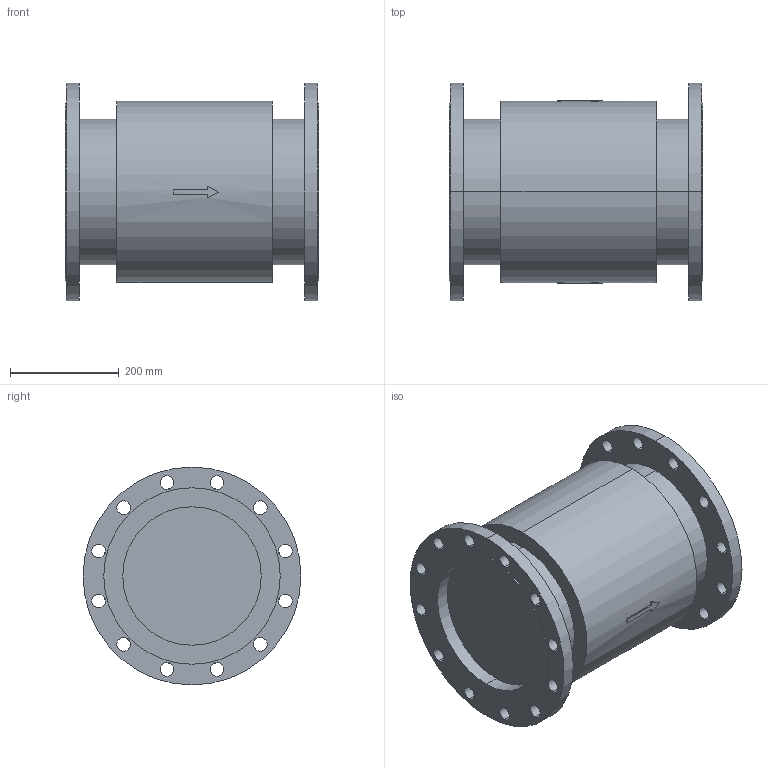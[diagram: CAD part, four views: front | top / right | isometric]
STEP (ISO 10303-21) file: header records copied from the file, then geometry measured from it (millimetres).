
FILE_DESCRIPTION( (''), '2;1');
FILE_NAME ('PC1027.10420.EB-1J　250A_19806.stp','2025-07-29T12:57:39',(''),(''),'spGate 20.6.3 (****-****-****-****)','','');
FILE_SCHEMA (('AUTOMOTIVE_DESIGN'));
Length unit declared in the file: millimetre
Bounding box: 465 x 400 x 400 mm (x, y, z)
Volume: 35426460 mm3; surface area: 984593.5 mm2
Topology: 1 solids, 1 shells, 92 faces, 242 edges, 162 vertices
Faces by surface type: cylinder 66, plane 26
Entity records: 4845 total; most frequent: CARTESIAN_POINT 570, DIRECTION 496, ORIENTED_EDGE 484, COLOUR_RGB 335, PRESENTATION_STYLE_ASSIGNMENT 335, STYLED_ITEM 335, EDGE_CURVE 242, DRAUGHTING_PRE_DEFINED_CURVE_FONT 242
